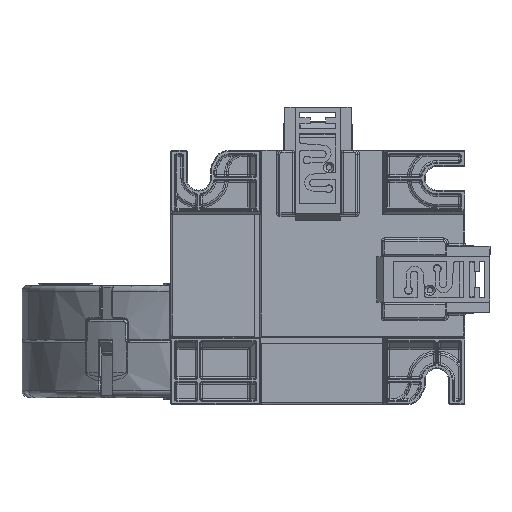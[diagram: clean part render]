
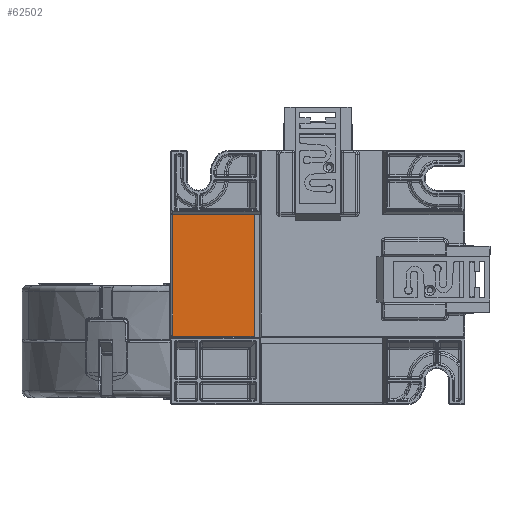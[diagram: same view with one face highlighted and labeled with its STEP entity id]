
A CAD part, front view. The second image highlights one B-rep face of the part: STEP entity #62502.
In plain terms, the highlighted planar face has unit normal (0, -1, 0).
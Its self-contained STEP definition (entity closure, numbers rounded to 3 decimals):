
#1360 = LINE ( 'NONE', #81736, #61015 ) ;
#5488 = LINE ( 'NONE', #42593, #91637 ) ;
#21750 = AXIS2_PLACEMENT_3D ( 'NONE', #125075, #113718, #103888 ) ;
#24373 = CARTESIAN_POINT ( 'NONE',  ( -15.153, 4.353, 35. ) ) ;
#25599 = ORIENTED_EDGE ( 'NONE', *, *, #56223, .T. ) ;
#28556 = ORIENTED_EDGE ( 'NONE', *, *, #78419, .F. ) ;
#33440 = DIRECTION ( 'NONE',  ( 0., 0., -1. ) ) ;
#34861 = DIRECTION ( 'NONE',  ( 0., 0., -1. ) ) ;
#37708 = CARTESIAN_POINT ( 'NONE',  ( -15.153, 4.353, 1.3 ) ) ;
#39437 = CARTESIAN_POINT ( 'NONE',  ( 7.397, 4.353, 1.3 ) ) ;
#42593 = CARTESIAN_POINT ( 'NONE',  ( 65.847, 4.353, 35. ) ) ;
#46322 = LINE ( 'NONE', #92617, #100936 ) ;
#49082 = DIRECTION ( 'NONE',  ( -1., 0., 0. ) ) ;
#49624 = EDGE_CURVE ( 'NONE', #70196, #134971, #5488, .T. ) ;
#56223 = EDGE_CURVE ( 'NONE', #134971, #74953, #46322, .T. ) ;
#59112 = EDGE_LOOP ( 'NONE', ( #92050, #25599, #28556, #103210 ) ) ;
#61015 = VECTOR ( 'NONE', #49082, 1000. ) ;
#62502 = ADVANCED_FACE ( 'NONE', ( #114469 ), #78841, .F. ) ;
#63270 = CARTESIAN_POINT ( 'NONE',  ( 7.397, 4.353, 35. ) ) ;
#68990 = LINE ( 'NONE', #104657, #124367 ) ;
#70196 = VERTEX_POINT ( 'NONE', #63270 ) ;
#74953 = VERTEX_POINT ( 'NONE', #37708 ) ;
#78419 = EDGE_CURVE ( 'NONE', #119348, #74953, #1360, .T. ) ;
#78841 = PLANE ( 'NONE',  #21750 ) ;
#81736 = CARTESIAN_POINT ( 'NONE',  ( 65.847, 4.353, 1.3 ) ) ;
#91637 = VECTOR ( 'NONE', #100274, 1000. ) ;
#92050 = ORIENTED_EDGE ( 'NONE', *, *, #49624, .T. ) ;
#92617 = CARTESIAN_POINT ( 'NONE',  ( -15.153, 4.353, 1.3 ) ) ;
#100166 = EDGE_CURVE ( 'NONE', #70196, #119348, #68990, .T. ) ;
#100274 = DIRECTION ( 'NONE',  ( -1., 0., 0. ) ) ;
#100936 = VECTOR ( 'NONE', #33440, 1000. ) ;
#103210 = ORIENTED_EDGE ( 'NONE', *, *, #100166, .F. ) ;
#103888 = DIRECTION ( 'NONE',  ( 0., 0., 1. ) ) ;
#104657 = CARTESIAN_POINT ( 'NONE',  ( 7.397, 4.353, 1.3 ) ) ;
#113718 = DIRECTION ( 'NONE',  ( 0., 1., 0. ) ) ;
#114469 = FACE_OUTER_BOUND ( 'NONE', #59112, .T. ) ;
#119348 = VERTEX_POINT ( 'NONE', #39437 ) ;
#124367 = VECTOR ( 'NONE', #34861, 1000. ) ;
#125075 = CARTESIAN_POINT ( 'NONE',  ( 65.847, 4.353, 1.3 ) ) ;
#134971 = VERTEX_POINT ( 'NONE', #24373 ) ;
